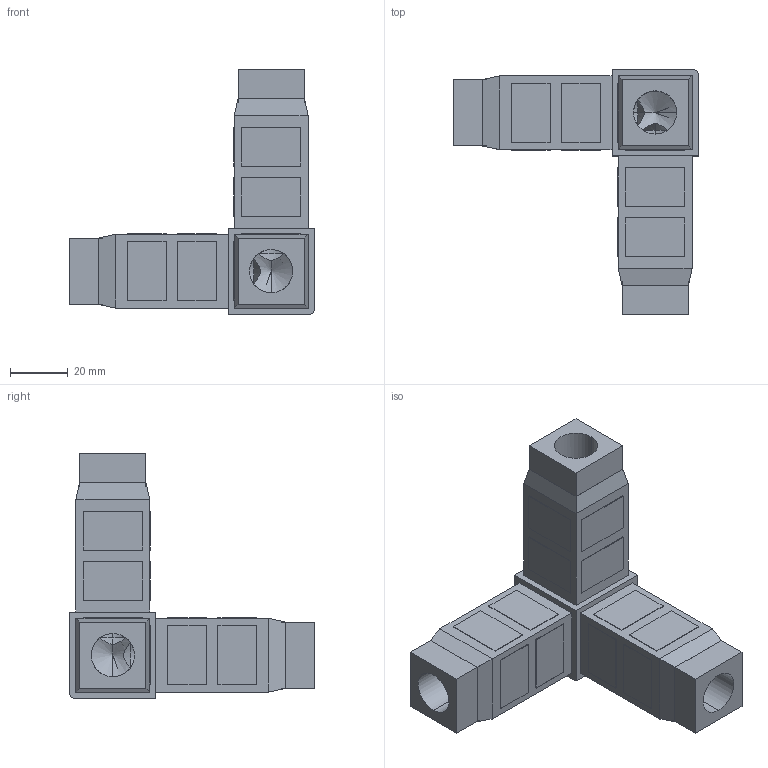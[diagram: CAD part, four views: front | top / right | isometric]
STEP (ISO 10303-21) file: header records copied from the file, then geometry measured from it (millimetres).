
FILE_DESCRIPTION (( 'STEP AP203' ), '1' );
FILE_NAME ('F030103.STEP', '2017-03-22T12:48:18', ( 'Localadmin' ), ( 'Microsoft' ), 'SwSTEP 2.0', 'SolidWorks 2016', '' );
FILE_SCHEMA (( 'CONFIG_CONTROL_DESIGN' ));
Length unit declared in the file: millimetre
Products named in the file (1): F030103
Bounding box: 85 x 85 x 85 mm (x, y, z)
Volume: 96813.9 mm3; surface area: 60679.5 mm2
Topology: 2 solids, 2 shells, 190 faces, 467 edges, 297 vertices
Faces by surface type: plane 174, cylinder 9, cone 6, sphere 1
Entity records: 5577 total; most frequent: CARTESIAN_POINT 1042, ORIENTED_EDGE 920, DIRECTION 853, EDGE_CURVE 460, LINE 429, VECTOR 429, VERTEX_POINT 297, EDGE_LOOP 223
